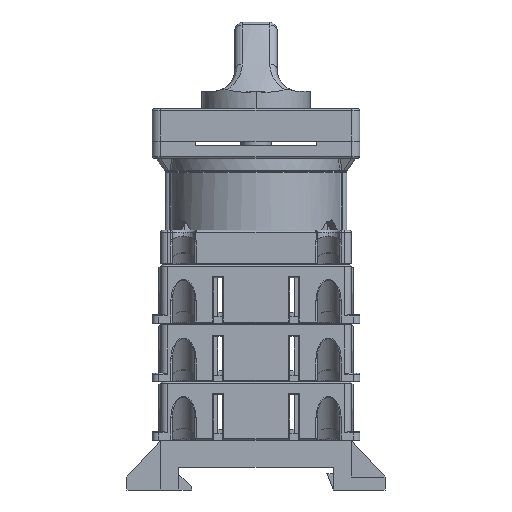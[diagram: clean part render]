
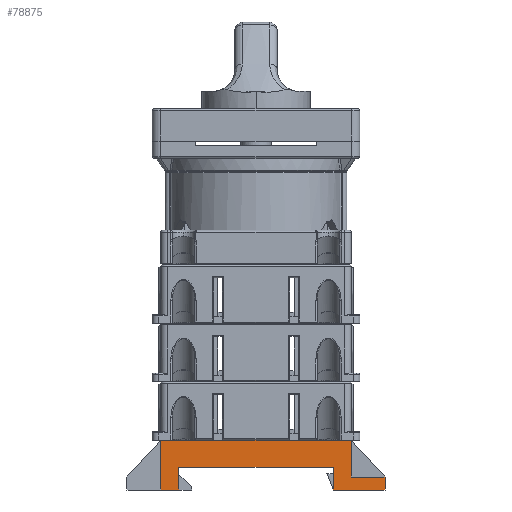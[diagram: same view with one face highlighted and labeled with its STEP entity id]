
A CAD part, left-side view. The second image highlights one B-rep face of the part: STEP entity #78875.
In plain terms, the highlighted planar face has unit normal (-1, 0, 0).
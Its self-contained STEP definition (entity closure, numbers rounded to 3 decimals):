
#19659 = ORIENTED_EDGE ( 'NONE', *, *, #77994, .F. ) ;
#19661 = ORIENTED_EDGE ( 'NONE', *, *, #77997, .F. ) ;
#19663 = ORIENTED_EDGE ( 'NONE', *, *, #77999, .F. ) ;
#19665 = ORIENTED_EDGE ( 'NONE', *, *, #78001, .F. ) ;
#19667 = ORIENTED_EDGE ( 'NONE', *, *, #78004, .T. ) ;
#19668 = ORIENTED_EDGE ( 'NONE', *, *, #41771, .T. ) ;
#19669 = ORIENTED_EDGE ( 'NONE', *, *, #41745, .F. ) ;
#19670 = ORIENTED_EDGE ( 'NONE', *, *, #78006, .F. ) ;
#19672 = ORIENTED_EDGE ( 'NONE', *, *, #41774, .F. ) ;
#19673 = ORIENTED_EDGE ( 'NONE', *, *, #41765, .T. ) ;
#35529 = AXIS2_PLACEMENT_3D ( 'NONE', #49805, #49809, #49810 ) ;
#39949 = LINE ( 'NONE', #41141, #39954 ) ;
#39954 = VECTOR ( 'NONE', #41146, 1000. ) ;
#39988 = LINE ( 'NONE', #41182, #39993 ) ;
#39993 = VECTOR ( 'NONE', #41187, 1000. ) ;
#40000 = LINE ( 'NONE', #43056, #40005 ) ;
#40005 = VECTOR ( 'NONE', #43072, 1000. ) ;
#40008 = LINE ( 'NONE', #43085, #40011 ) ;
#40011 = VECTOR ( 'NONE', #43087, 1000. ) ;
#41141 = CARTESIAN_POINT ( 'NONE',  ( -22., 17.85, 0. ) ) ;
#41146 = DIRECTION ( 'NONE',  ( 0., 0., -1. ) ) ;
#41182 = CARTESIAN_POINT ( 'NONE',  ( -22., 22., 0. ) ) ;
#41187 = DIRECTION ( 'NONE',  ( 0., -1., 0. ) ) ;
#41745 = EDGE_CURVE ( 'NONE', #43458, #43502, #39949, .T. ) ;
#41765 = EDGE_CURVE ( 'NONE', #43513, #44191, #39988, .T. ) ;
#41771 = EDGE_CURVE ( 'NONE', #44198, #43502, #40000, .T. ) ;
#41774 = EDGE_CURVE ( 'NONE', #43513, #44203, #40008, .T. ) ;
#43056 = CARTESIAN_POINT ( 'NONE',  ( -22., 22., 0. ) ) ;
#43072 = DIRECTION ( 'NONE',  ( 0., -1., 0. ) ) ;
#43085 = CARTESIAN_POINT ( 'NONE',  ( -22., -17.85, 0. ) ) ;
#43087 = DIRECTION ( 'NONE',  ( 0., 0., 1. ) ) ;
#43458 = VERTEX_POINT ( 'NONE', #47489 ) ;
#43502 = VERTEX_POINT ( 'NONE', #47515 ) ;
#43513 = VERTEX_POINT ( 'NONE', #47520 ) ;
#44191 = VERTEX_POINT ( 'NONE', #47526 ) ;
#44198 = VERTEX_POINT ( 'NONE', #47533 ) ;
#44203 = VERTEX_POINT ( 'NONE', #47538 ) ;
#44221 = VERTEX_POINT ( 'NONE', #47556 ) ;
#44224 = VERTEX_POINT ( 'NONE', #47559 ) ;
#44230 = VERTEX_POINT ( 'NONE', #47565 ) ;
#44242 = VERTEX_POINT ( 'NONE', #47577 ) ;
#44537 = EDGE_LOOP ( 'NONE', ( #19659, #19661, #19663, #19665, #19667, #19668, #19669, #19670, #19672, #19673 ) ) ;
#45639 = LINE ( 'NONE', #47635, #45644 ) ;
#45641 = LINE ( 'NONE', #47661, #45648 ) ;
#45643 = LINE ( 'NONE', #47666, #45646 ) ;
#45644 = VECTOR ( 'NONE', #47665, 1000. ) ;
#45645 = LINE ( 'NONE', #47664, #45650 ) ;
#45646 = VECTOR ( 'NONE', #47668, 1000. ) ;
#45648 = VECTOR ( 'NONE', #47669, 1000. ) ;
#45649 = LINE ( 'NONE', #47672, #45652 ) ;
#45650 = VECTOR ( 'NONE', #47671, 1000. ) ;
#45651 = LINE ( 'NONE', #47674, #45654 ) ;
#45652 = VECTOR ( 'NONE', #47673, 1000. ) ;
#45654 = VECTOR ( 'NONE', #47675, 1000. ) ;
#47489 = CARTESIAN_POINT ( 'NONE',  ( -22., 17.85, 5.2 ) ) ;
#47515 = CARTESIAN_POINT ( 'NONE',  ( -22., 17.85, 0. ) ) ;
#47520 = CARTESIAN_POINT ( 'NONE',  ( -22., -17.85, 0. ) ) ;
#47526 = CARTESIAN_POINT ( 'NONE',  ( -22., -29.8, 0. ) ) ;
#47533 = CARTESIAN_POINT ( 'NONE',  ( -22., 22., 0. ) ) ;
#47538 = CARTESIAN_POINT ( 'NONE',  ( -22., -17.85, 5.2 ) ) ;
#47556 = CARTESIAN_POINT ( 'NONE',  ( -22., -22., 11.5 ) ) ;
#47559 = CARTESIAN_POINT ( 'NONE',  ( -22., -29.8, 3. ) ) ;
#47565 = CARTESIAN_POINT ( 'NONE',  ( -22., -22., 3. ) ) ;
#47577 = CARTESIAN_POINT ( 'NONE',  ( -22., 22., 11.5 ) ) ;
#47635 = CARTESIAN_POINT ( 'NONE',  ( -22., -29.8, 11.5 ) ) ;
#47661 = CARTESIAN_POINT ( 'NONE',  ( -22., -22., 11.5 ) ) ;
#47664 = CARTESIAN_POINT ( 'NONE',  ( -22., 22., 11.5 ) ) ;
#47665 = DIRECTION ( 'NONE',  ( 0., 0., -1. ) ) ;
#47666 = CARTESIAN_POINT ( 'NONE',  ( -22., -22., 3. ) ) ;
#47668 = DIRECTION ( 'NONE',  ( 0., -1., 0. ) ) ;
#47669 = DIRECTION ( 'NONE',  ( 0., 0., -1. ) ) ;
#47671 = DIRECTION ( 'NONE',  ( 0., -1., 0. ) ) ;
#47672 = CARTESIAN_POINT ( 'NONE',  ( -22., 22., 11.5 ) ) ;
#47673 = DIRECTION ( 'NONE',  ( 0., 0., -1. ) ) ;
#47674 = CARTESIAN_POINT ( 'NONE',  ( -22., -17.85, 5.2 ) ) ;
#47675 = DIRECTION ( 'NONE',  ( 0., 1., 0. ) ) ;
#49805 = CARTESIAN_POINT ( 'NONE',  ( -22., 22., 11.5 ) ) ;
#49807 = PLANE ( 'NONE',  #35529 ) ;
#49809 = DIRECTION ( 'NONE',  ( 1., 0., 0. ) ) ;
#49810 = DIRECTION ( 'NONE',  ( 0., 1., 0. ) ) ;
#50338 = FACE_OUTER_BOUND ( 'NONE', #44537, .T. ) ;
#77994 = EDGE_CURVE ( 'NONE', #44224, #44191, #45639, .T. ) ;
#77997 = EDGE_CURVE ( 'NONE', #44230, #44224, #45643, .T. ) ;
#77999 = EDGE_CURVE ( 'NONE', #44221, #44230, #45641, .T. ) ;
#78001 = EDGE_CURVE ( 'NONE', #44242, #44221, #45645, .T. ) ;
#78004 = EDGE_CURVE ( 'NONE', #44242, #44198, #45649, .T. ) ;
#78006 = EDGE_CURVE ( 'NONE', #44203, #43458, #45651, .T. ) ;
#78875 = ADVANCED_FACE ( 'NONE', ( #50338 ), #49807, .F. ) ;
